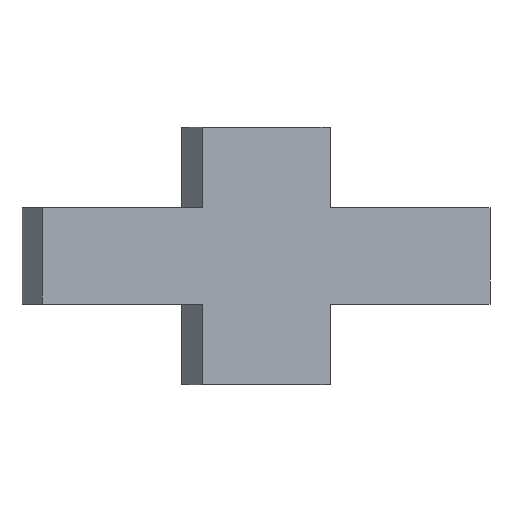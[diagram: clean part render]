
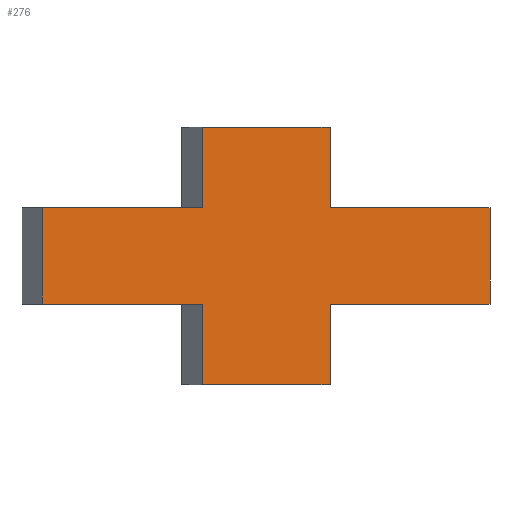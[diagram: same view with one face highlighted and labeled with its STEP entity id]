
A CAD part, top view. The second image highlights one B-rep face of the part: STEP entity #276.
In plain terms, the highlighted planar face has unit normal (0.104, 0, 0.995).
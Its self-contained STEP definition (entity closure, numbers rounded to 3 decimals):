
#30=FACE_OUTER_BOUND('',#44,.T.);
#44=EDGE_LOOP('',(#223,#224,#225,#226,#227,#228,#229,#230,#231,#232,#233,
#234));
#47=LINE('',#384,#83);
#51=LINE('',#392,#87);
#54=LINE('',#398,#90);
#59=LINE('',#407,#95);
#60=LINE('',#410,#96);
#64=LINE('',#419,#100);
#69=LINE('',#428,#105);
#72=LINE('',#434,#108);
#73=LINE('',#437,#109);
#78=LINE('',#446,#114);
#80=LINE('',#449,#116);
#81=LINE('',#451,#117);
#83=VECTOR('',#315,10.);
#87=VECTOR('',#321,10.);
#90=VECTOR('',#326,10.);
#95=VECTOR('',#333,10.);
#96=VECTOR('',#336,10.);
#100=VECTOR('',#342,10.);
#105=VECTOR('',#349,10.);
#108=VECTOR('',#354,10.);
#109=VECTOR('',#357,10.);
#114=VECTOR('',#364,10.);
#116=VECTOR('',#368,10.);
#117=VECTOR('',#371,10.);
#119=VERTEX_POINT('',#382);
#120=VERTEX_POINT('',#383);
#123=VERTEX_POINT('',#391);
#125=VERTEX_POINT('',#397);
#128=VERTEX_POINT('',#405);
#129=VERTEX_POINT('',#409);
#132=VERTEX_POINT('',#416);
#133=VERTEX_POINT('',#418);
#136=VERTEX_POINT('',#426);
#138=VERTEX_POINT('',#432);
#139=VERTEX_POINT('',#436);
#142=VERTEX_POINT('',#444);
#143=EDGE_CURVE('',#119,#120,#47,.T.);
#147=EDGE_CURVE('',#123,#120,#51,.T.);
#150=EDGE_CURVE('',#123,#125,#54,.T.);
#155=EDGE_CURVE('',#128,#119,#59,.T.);
#156=EDGE_CURVE('',#125,#129,#60,.T.);
#160=EDGE_CURVE('',#132,#133,#64,.T.);
#165=EDGE_CURVE('',#136,#132,#69,.T.);
#168=EDGE_CURVE('',#138,#136,#72,.T.);
#169=EDGE_CURVE('',#139,#133,#73,.T.);
#174=EDGE_CURVE('',#138,#142,#78,.T.);
#176=EDGE_CURVE('',#139,#128,#80,.T.);
#177=EDGE_CURVE('',#129,#142,#81,.T.);
#223=ORIENTED_EDGE('',*,*,#169,.T.);
#224=ORIENTED_EDGE('',*,*,#160,.F.);
#225=ORIENTED_EDGE('',*,*,#165,.F.);
#226=ORIENTED_EDGE('',*,*,#168,.F.);
#227=ORIENTED_EDGE('',*,*,#174,.T.);
#228=ORIENTED_EDGE('',*,*,#177,.F.);
#229=ORIENTED_EDGE('',*,*,#156,.F.);
#230=ORIENTED_EDGE('',*,*,#150,.F.);
#231=ORIENTED_EDGE('',*,*,#147,.T.);
#232=ORIENTED_EDGE('',*,*,#143,.F.);
#233=ORIENTED_EDGE('',*,*,#155,.F.);
#234=ORIENTED_EDGE('',*,*,#176,.F.);
#262=PLANE('',#305);
#276=ADVANCED_FACE('',(#30),#262,.T.);
#305=AXIS2_PLACEMENT_3D('',#450,#369,#370);
#315=DIRECTION('',(0.995,0.,-0.105));
#321=DIRECTION('',(0.,1.,0.));
#326=DIRECTION('',(-0.995,0.,0.105));
#333=DIRECTION('',(0.,-1.,0.));
#336=DIRECTION('',(0.,-1.,0.));
#342=DIRECTION('',(0.995,0.,-0.105));
#349=DIRECTION('',(0.,1.,0.));
#354=DIRECTION('',(-0.995,0.,0.105));
#357=DIRECTION('',(0.,-1.,0.));
#364=DIRECTION('',(0.,-1.,0.));
#368=DIRECTION('',(0.995,0.,-0.105));
#369=DIRECTION('center_axis',(0.105,0.,0.995));
#370=DIRECTION('ref_axis',(-0.995,0.,0.105));
#371=DIRECTION('',(-0.995,0.,0.105));
#382=CARTESIAN_POINT('',(10.505,1.5,13.572));
#383=CARTESIAN_POINT('',(15.477,1.5,13.05));
#384=CARTESIAN_POINT('',(10.505,1.5,13.572));
#391=CARTESIAN_POINT('',(15.477,-1.5,13.05));
#392=CARTESIAN_POINT('',(15.477,0.,13.05));
#397=CARTESIAN_POINT('',(10.505,-1.5,13.572));
#398=CARTESIAN_POINT('',(10.505,-1.5,13.572));
#405=CARTESIAN_POINT('',(10.505,4.,13.572));
#407=CARTESIAN_POINT('',(10.505,0.,13.572));
#409=CARTESIAN_POINT('',(10.505,-4.,13.572));
#410=CARTESIAN_POINT('',(10.505,0.,13.572));
#416=CARTESIAN_POINT('',(1.554,1.5,14.513));
#418=CARTESIAN_POINT('',(6.527,1.5,13.99));
#419=CARTESIAN_POINT('',(6.527,1.5,13.99));
#426=CARTESIAN_POINT('',(1.554,-1.5,14.513));
#428=CARTESIAN_POINT('',(1.554,0.,14.513));
#432=CARTESIAN_POINT('',(6.527,-1.5,13.99));
#434=CARTESIAN_POINT('',(6.527,-1.5,13.99));
#436=CARTESIAN_POINT('',(6.527,4.,13.99));
#437=CARTESIAN_POINT('',(6.527,0.,13.99));
#444=CARTESIAN_POINT('',(6.527,-4.,13.99));
#446=CARTESIAN_POINT('',(6.527,0.,13.99));
#449=CARTESIAN_POINT('',(6.527,4.,13.99));
#450=CARTESIAN_POINT('Origin',(10.505,0.,13.572));
#451=CARTESIAN_POINT('',(6.527,-4.,13.99));
